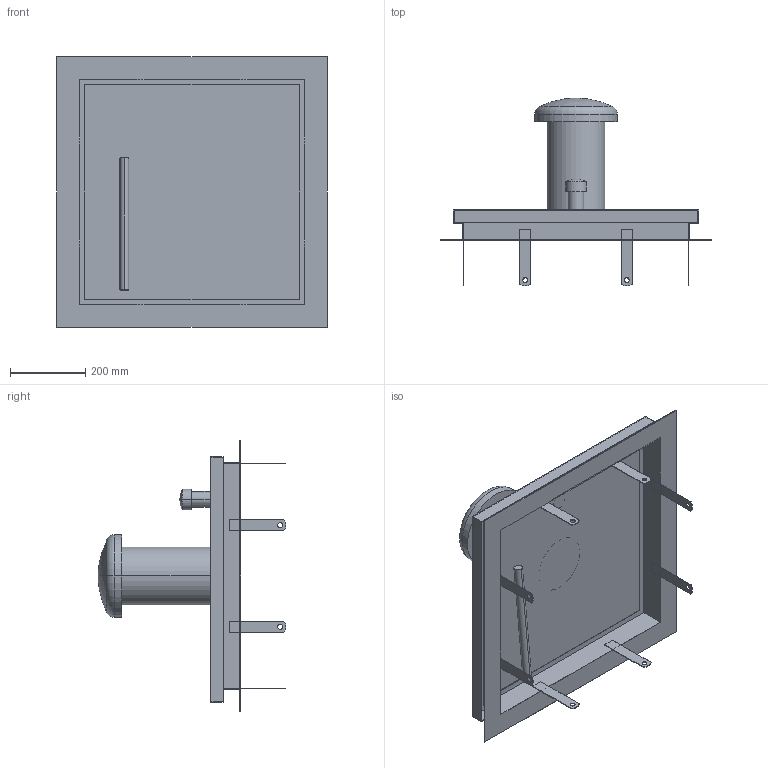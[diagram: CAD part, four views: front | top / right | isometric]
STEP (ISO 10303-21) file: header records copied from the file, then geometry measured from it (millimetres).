
FILE_DESCRIPTION((''),'2;1');
FILE_NAME('51284774','2018-12-17T',('wj'),('HUBER SE'),'PRO/ENGINEER BY PARAMETRIC TECHNOLOGY CORPORATION, 2017170','PRO/ENGINEER BY PARAMETRIC TECHNOLOGY CORPORATION, 2017170','');
FILE_SCHEMA(('AUTOMOTIVE_DESIGN { 1 0 10303 214 1 1 1 1 }'));
Length unit declared in the file: millimetre
Products named in the file (1): 51284774
Bounding box: 720 x 499 x 720 mm (x, y, z)
Volume: 8234839.5 mm3; surface area: 1993625.7 mm2
Topology: 3 solids, 3 shells, 115 faces, 290 edges, 184 vertices
Faces by surface type: plane 75, cylinder 34, sphere 2, torus 2, bspline 2
Entity records: 4077 total; most frequent: CARTESIAN_POINT 650, DIRECTION 601, ORIENTED_EDGE 572, EDGE_CURVE 286, VECTOR 210, LINE 210, AXIS2_PLACEMENT_3D 194, VERTEX_POINT 184
